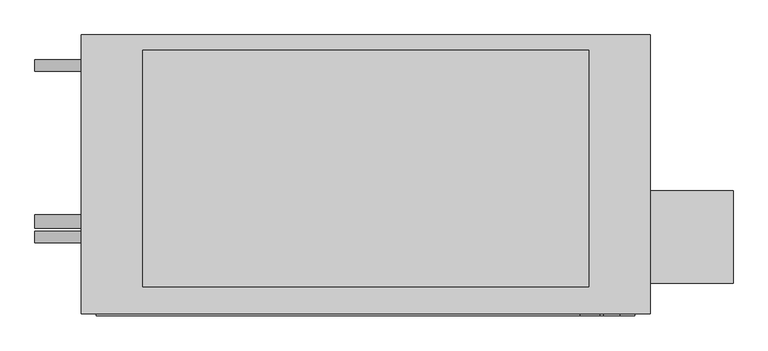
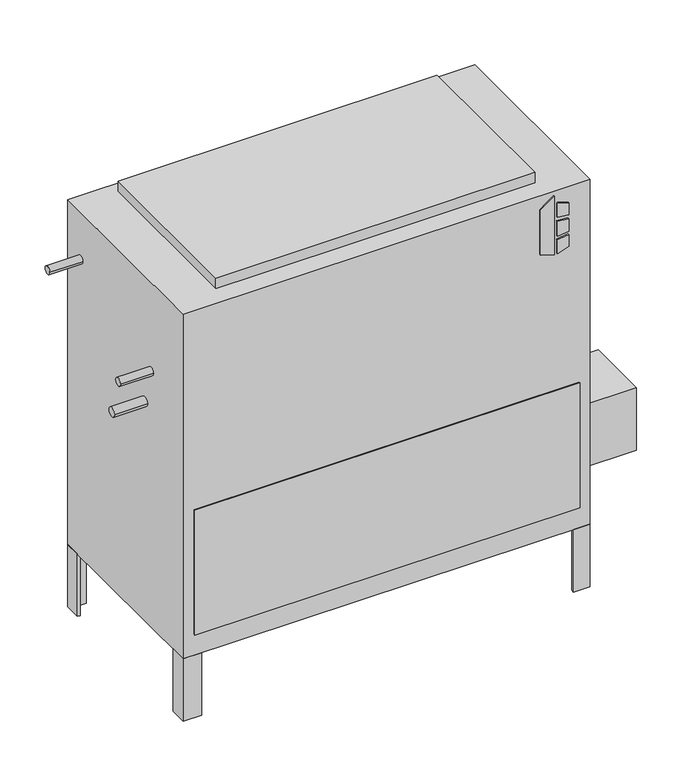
"""IFC4 building model written with IfcOpenShell, lengths in millimetres: proxy geometry, Concealed_High_Capacity_Vertical_Fan_Coil_Unit_-_VEY_-_IEC_-_2-Pipe_Cool-EHeat_LH_2022 : Size 12 - 277v/60Hz/1Ph - 6 Row 9.0kW."""

from ifc_helpers import new_model, si_unit, point, frame, frame_2d, origin, origin_with_axes, place, context, project, spatial, polyline, circle_curve, trimmed, segment, composite_curve, outline, extrude, source, transform, mapped, element, save


def mechanical_equipment_dd0b7da7(model_context):
    return source(origin(), model_context, "Body", "SweptSolid", [
        extrude(outline(polyline([(698.9230703, 506.4868862), (688.975, 538.6602728), (831.1459244, 538.6602728), (808.1239183, 506.4868862), (698.9230703, 506.4868862)])), frame((0.0, -471.4875, 0.0), z_axis=(0.0, 1.0, 0.0), x_axis=(0.0, 0.0, 1.0)), (0.0, 0.0, 1.0), 3.175),
        extrude(outline(polyline([(777.9223557, 545.4186058), (774.7199632, 571.5), (803.9488042, 571.5), (812.0132193, 545.4186058), (777.9223557, 545.4186058)])), frame((0.0, -471.4875, 0.0), z_axis=(0.0, 1.0, 0.0), x_axis=(0.0, 0.0, 1.0)), (0.0, 0.0, 1.0), 3.175),
        extrude(outline(polyline([(726.0588288, 571.5), (722.3933279, 545.4186058), (688.975, 545.4186058), (697.6092372, 571.5), (726.0588288, 571.5)])), frame((0.0, -471.4875, 0.0), z_axis=(0.0, 1.0, 0.0), x_axis=(0.0, 0.0, 1.0)), (0.0, 0.0, 1.0), 3.175),
        extrude(outline(polyline([(765.3739903, 571.5), (767.6558166, 545.4186058), (731.7182681, 545.4186058), (734.4595331, 571.5), (765.3739903, 571.5)])), frame((0.0, -471.4875, 0.0), z_axis=(0.0, 1.0, 0.0), x_axis=(0.0, 0.0, 1.0)), (0.0, 0.0, 1.0), 3.175),
        extrude(outline(polyline([(622.3, -417.5125), (622.3, -265.1125), (758.825, -265.1125), (758.825, -417.5125), (622.3, -417.5125)])), frame((0.0, 0.0, 101.6), z_axis=(0.0, 0.0, 1.0), x_axis=(1.0, 0.0, 0.0)), (0.0, 0.0, 1.0), 152.4),
        extrude(outline(polyline([(622.3, -46.0375), (615.95, -46.0375), (615.95, -14.2875), (584.2, -14.2875), (584.2, -7.9375), (622.3, -7.9375), (622.3, -46.0375)])), frame((0.0, 0.0, -152.4), z_axis=(0.0, 0.0, 1.0), x_axis=(1.0, 0.0, 0.0)), (0.0, 0.0, 1.0), 152.4),
        extrude(outline(polyline([(-279.4, -7.9375), (-279.4, -14.2875), (-311.15, -14.2875), (-311.15, -46.0375), (-317.5, -46.0375), (-317.5, -7.9375), (-279.4, -7.9375)])), frame((0.0, 0.0, -152.4), z_axis=(0.0, 0.0, 1.0), x_axis=(1.0, 0.0, 0.0)), (0.0, 0.0, 1.0), 152.4),
        extrude(outline(polyline([(584.2, -468.3125), (584.2, -461.9625), (615.95, -461.9625), (615.95, -430.2125), (622.3, -430.2125), (622.3, -468.3125), (584.2, -468.3125)])), frame((0.0, 0.0, -152.4), z_axis=(0.0, 0.0, 1.0), x_axis=(1.0, 0.0, 0.0)), (0.0, 0.0, 1.0), 152.4),
        extrude(outline(polyline([(-317.5, -428.1199163), (-311.15, -428.1199163), (-311.15, -461.9625), (-274.0318533, -461.9625), (-274.0318533, -468.3125), (-317.5, -468.3125), (-317.5, -428.1199163)])), frame((0.0, 0.0, -152.4), z_axis=(0.0, 0.0, 1.0), x_axis=(1.0, 0.0, 0.0)), (0.0, 0.0, 1.0), 152.4),
        extrude(outline(polyline([(520.7, -33.3375), (520.7, -423.8625), (-215.9, -423.8625), (-215.9, -33.3375), (520.7, -33.3375)])), frame((0.0, 0.0, 841.375), z_axis=(0.0, 0.0, 1.0), x_axis=(1.0, 0.0, 0.0)), (0.0, 0.0, 1.0), 25.4),
        extrude(outline(polyline([(596.9, -471.4875), (-292.1, -471.4875), (-292.1, -468.3125), (596.9, -468.3125), (596.9, -471.4875)])), frame((0.0, 0.0, 50.8), z_axis=(0.0, 0.0, 1.0), x_axis=(1.0, 0.0, 0.0)), (0.0, 0.0, 1.0), 304.8),
        extrude(outline(composite_curve([segment(trimmed(circle_curve(frame_2d((-58.7375, 727.075)), 9.525), [point((-68.2625, 727.075))], [point((-49.2125, 727.075))], False, "CARTESIAN"), True, "CONTINUOUS"), segment(trimmed(circle_curve(frame_2d((-58.7375, 727.075)), 9.525), [point((-49.2125, 727.075))], [point((-68.2625, 727.075))], False, "CARTESIAN"), True, "CONTINUOUS")], self_intersect=False)), frame((-393.7, 0.0, 0.0), z_axis=(1.0, 0.0, 0.0), x_axis=(0.0, 1.0, 0.0)), (0.0, 0.0, 1.0), 76.2),
        extrude(outline(composite_curve([segment(trimmed(circle_curve(frame_2d((-341.3125, 625.475)), 9.525), [point((-350.8375, 625.475))], [point((-331.7875, 625.475))], False, "CARTESIAN"), True, "CONTINUOUS"), segment(trimmed(circle_curve(frame_2d((-341.3125, 625.475)), 9.525), [point((-331.7875, 625.475))], [point((-350.8375, 625.475))], False, "CARTESIAN"), True, "CONTINUOUS")], self_intersect=False)), frame((-393.7, 0.0, 0.0), z_axis=(1.0, 0.0, 0.0), x_axis=(0.0, 1.0, 0.0)), (0.0, 0.0, 1.0), 76.2),
        extrude(outline(composite_curve([segment(trimmed(circle_curve(frame_2d((-315.9125, 536.575)), 11.1125), [point((-327.025, 536.575))], [point((-304.8, 536.575))], False, "CARTESIAN"), True, "CONTINUOUS"), segment(trimmed(circle_curve(frame_2d((-315.9125, 536.575)), 11.1125), [point((-304.8, 536.575))], [point((-327.025, 536.575))], False, "CARTESIAN"), True, "CONTINUOUS")], self_intersect=False)), frame((-393.7, 0.0, 0.0), z_axis=(1.0, 0.0, 0.0), x_axis=(0.0, 1.0, 0.0)), (0.0, 0.0, 1.0), 76.2),
        extrude(outline(polyline([(622.3, -7.9375), (622.3, -468.3125), (-317.5, -468.3125), (-317.5, -7.9375), (622.3, -7.9375)])), origin_with_axes(), (0.0, 0.0, 1.0), 841.375),
    ])


if __name__ == "__main__":
    model = new_model("IFC4")
    model_context = context("Model", 3, world=origin())
    ifc_project = project(units=[si_unit("LENGTHUNIT", "METRE", prefix="MILLI")], contexts=[model_context])
    site = spatial("IfcSite", under=ifc_project)
    building = spatial("IfcBuilding", under=site)
    placement = place(None, origin())
    mechanical_equipment_shape = mechanical_equipment_dd0b7da7(model_context)
    element("IfcBuildingElementProxy", 1, Name="Concealed_High_Capacity_Vertical_Fan_Coil_Unit_-_VEY_-_IEC_-_2-Pipe_Cool-EHeat_LH_2022 : Size 12 - 277v/60Hz/1Ph - 6 Row 9.0kW", ObjectType="Concealed_High_Capacity_Vertical_Fan_Coil_Unit_-_VEY_-_IEC_-_2-Pipe_Cool-EHeat_LH_2022 : Size 12 - 277v/60Hz/1Ph - 6 Row 9.0kW", at=placement, inside=building, context=model_context, shape_type="MappedRepresentation", body=[
        mapped(mechanical_equipment_shape, transform((0.0, 0.0, 0.0), x_axis=(1.0, 0.0, 0.0), y_axis=(0.0, 1.0, 0.0), z_axis=(0.0, 0.0, 1.0))),
    ])
    save(model, "model.ifc")
